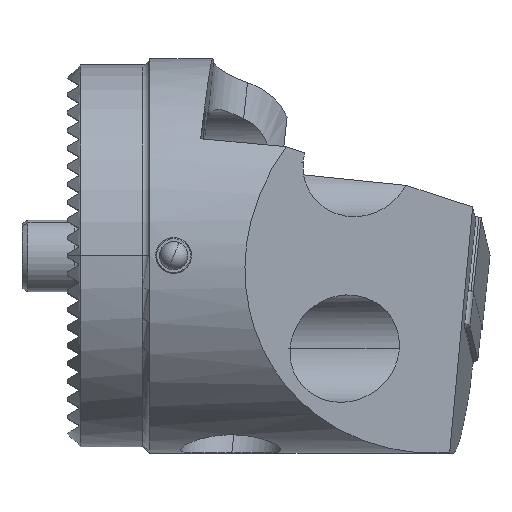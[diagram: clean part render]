
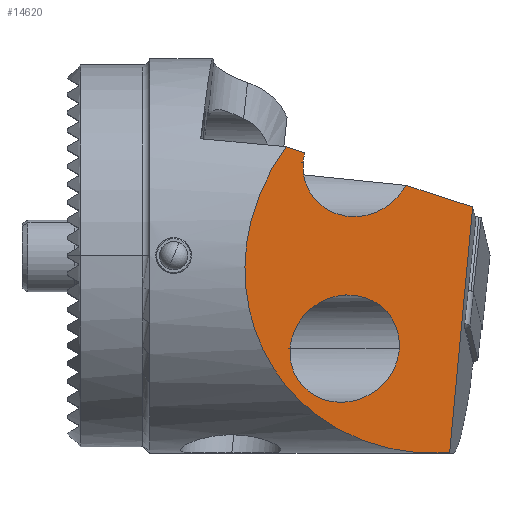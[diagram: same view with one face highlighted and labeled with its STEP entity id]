
A CAD part, top view. The second image highlights one B-rep face of the part: STEP entity #14620.
In plain terms, the highlighted planar face has unit normal (0.701, -0.049, 0.712).
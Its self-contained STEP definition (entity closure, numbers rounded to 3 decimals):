
#1172 = CARTESIAN_POINT ( 'NONE',  ( 24.949, 0.296, 6.248 ) ) ;
#1301 = ORIENTED_EDGE ( 'NONE', *, *, #18798, .F. ) ;
#1787 = ORIENTED_EDGE ( 'NONE', *, *, #15369, .T. ) ;
#2332 =( BOUNDED_CURVE ( )  B_SPLINE_CURVE ( 3, ( #7315, #13569, #19921, #7706 ),
 .UNSPECIFIED., .F., .F. ) 
 B_SPLINE_CURVE_WITH_KNOTS ( ( 4, 4 ),
 ( 6.214, 9.356 ),
 .UNSPECIFIED. ) 
 CURVE ( )  GEOMETRIC_REPRESENTATION_ITEM ( )  RATIONAL_B_SPLINE_CURVE ( ( 1., 0.333, 0.333, 1. ) ) 
 REPRESENTATION_ITEM ( '' )  );
#2341 = DIRECTION ( 'NONE',  ( -0.713, 0., 0.701 ) ) ;
#2640 = CARTESIAN_POINT ( 'NONE',  ( 17.949, 9.122, 13.749 ) ) ;
#2766 = DIRECTION ( 'NONE',  ( 0.687, -0.221, -0.692 ) ) ;
#2960 = ORIENTED_EDGE ( 'NONE', *, *, #14311, .F. ) ;
#3030 = VERTEX_POINT ( 'NONE', #12591 ) ;
#3087 = VECTOR ( 'NONE', #9822, 1000. ) ;
#3417 = CARTESIAN_POINT ( 'NONE',  ( 30.118, -16.5, 0. ) ) ;
#3555 = VECTOR ( 'NONE', #7756, 1000. ) ;
#3759 = PLANE ( 'NONE',  #11657 ) ;
#3819 = LINE ( 'NONE', #12238, #10282 ) ;
#5655 = CARTESIAN_POINT ( 'NONE',  ( 27.949, 5.909, 3.685 ) ) ;
#5740 = CARTESIAN_POINT ( 'NONE',  ( 30.118, -16.5, 0. ) ) ;
#5889 = VECTOR ( 'NONE', #15462, 1000. ) ;
#5936 = EDGE_CURVE ( 'NONE', #10326, #13219, #14081, .T. ) ;
#6059 =( BOUNDED_CURVE ( )  B_SPLINE_CURVE ( 3, ( #17284, #6584, #18833, #15676 ),
 .UNSPECIFIED., .F., .F. ) 
 B_SPLINE_CURVE_WITH_KNOTS ( ( 4, 4 ),
 ( 2.883, 3.073 ),
 .UNSPECIFIED. ) 
 CURVE ( )  GEOMETRIC_REPRESENTATION_ITEM ( )  RATIONAL_B_SPLINE_CURVE ( ( 1., 0.997, 0.997, 1. ) ) 
 REPRESENTATION_ITEM ( '' )  );
#6227 = LINE ( 'NONE', #6824, #3087 ) ;
#6526 = EDGE_LOOP ( 'NONE', ( #12628, #1787, #18224, #2960, #1301, #12614, #8084 ) ) ;
#6584 = CARTESIAN_POINT ( 'NONE',  ( 19.416, 8.347, 12.251 ) ) ;
#6824 = CARTESIAN_POINT ( 'NONE',  ( 29.934, -34.454, -1.062 ) ) ;
#7315 = CARTESIAN_POINT ( 'NONE',  ( 27.4, -7.778, 3.278 ) ) ;
#7535 = EDGE_CURVE ( 'NONE', #11608, #3030, #19780, .T. ) ;
#7706 = CARTESIAN_POINT ( 'NONE',  ( 18.255, -7.778, 12.278 ) ) ;
#7756 = DIRECTION ( 'NONE',  ( 0.713, 0., -0.701 ) ) ;
#8084 = ORIENTED_EDGE ( 'NONE', *, *, #8744, .F. ) ;
#8250 = ORIENTED_EDGE ( 'NONE', *, *, #7535, .F. ) ;
#8744 = EDGE_CURVE ( 'NONE', #10326, #11327, #13838, .T. ) ;
#8825 = FACE_OUTER_BOUND ( 'NONE', #6526, .T. ) ;
#8995 = CARTESIAN_POINT ( 'NONE',  ( 27.4, -7.778, 3.278 ) ) ;
#9061 = CARTESIAN_POINT ( 'NONE',  ( 17.622, -16.778, 12.278 ) ) ;
#9076 = EDGE_CURVE ( 'NONE', #11327, #9391, #6059, .T. ) ;
#9391 = VERTEX_POINT ( 'NONE', #13209 ) ;
#9822 = DIRECTION ( 'NONE',  ( -0.093, -0.995, 0.023 ) ) ;
#10019 = LINE ( 'NONE', #16936, #3555 ) ;
#10051 = EDGE_CURVE ( 'NONE', #3030, #11608, #2332, .T. ) ;
#10067 = EDGE_LOOP ( 'NONE', ( #10322, #8250 ) ) ;
#10136 = CARTESIAN_POINT ( 'NONE',  ( 19.348, 7.778, 12.278 ) ) ;
#10282 = VECTOR ( 'NONE', #2766, 1000. ) ;
#10322 = ORIENTED_EDGE ( 'NONE', *, *, #10051, .F. ) ;
#10326 = VERTEX_POINT ( 'NONE', #16835 ) ;
#10334 =( BOUNDED_CURVE ( )  B_SPLINE_CURVE ( 3, ( #10136, #14945, #1172, #19470 ),
 .UNSPECIFIED., .F., .F. ) 
 B_SPLINE_CURVE_WITH_KNOTS ( ( 4, 4 ),
 ( 3.073, 5.786 ),
 .UNSPECIFIED. ) 
 CURVE ( )  GEOMETRIC_REPRESENTATION_ITEM ( )  RATIONAL_B_SPLINE_CURVE ( ( 1., 0.475, 0.475, 1. ) ) 
 REPRESENTATION_ITEM ( '' )  );
#10951 = CARTESIAN_POINT ( 'NONE',  ( 19.49, 8.627, 12.197 ) ) ;
#11327 = VERTEX_POINT ( 'NONE', #10951 ) ;
#11419 = CARTESIAN_POINT ( 'NONE',  ( 45.421, 0.607, -13.877 ) ) ;
#11608 = VERTEX_POINT ( 'NONE', #11869 ) ;
#11657 = AXIS2_PLACEMENT_3D ( 'NONE', #11419, #19248, #2341 ) ;
#11869 = CARTESIAN_POINT ( 'NONE',  ( 18.255, -7.778, 12.278 ) ) ;
#12038 = VERTEX_POINT ( 'NONE', #16683 ) ;
#12238 = CARTESIAN_POINT ( 'NONE',  ( 33.508, 4.122, -1.91 ) ) ;
#12301 = CARTESIAN_POINT ( 'NONE',  ( 26.767, -16.778, 3.278 ) ) ;
#12591 = CARTESIAN_POINT ( 'NONE',  ( 27.4, -7.778, 3.278 ) ) ;
#12614 = ORIENTED_EDGE ( 'NONE', *, *, #9076, .F. ) ;
#12628 = ORIENTED_EDGE ( 'NONE', *, *, #5936, .T. ) ;
#13209 = CARTESIAN_POINT ( 'NONE',  ( 19.348, 7.778, 12.278 ) ) ;
#13219 = VERTEX_POINT ( 'NONE', #3417 ) ;
#13569 = CARTESIAN_POINT ( 'NONE',  ( 28.033, 1.222, 3.278 ) ) ;
#13838 = LINE ( 'NONE', #13988, #5889 ) ;
#13988 = CARTESIAN_POINT ( 'NONE',  ( 33.508, 4.122, -1.91 ) ) ;
#14081 =( BOUNDED_CURVE ( )  B_SPLINE_CURVE ( 3, ( #2640, #17925, #19489, #5740 ),
 .UNSPECIFIED., .F., .F. ) 
 B_SPLINE_CURVE_WITH_KNOTS ( ( 4, 4 ),
 ( 2.487, 4.643 ),
 .UNSPECIFIED. ) 
 CURVE ( )  GEOMETRIC_REPRESENTATION_ITEM ( )  RATIONAL_B_SPLINE_CURVE ( ( 1., 0.649, 0.649, 1. ) ) 
 REPRESENTATION_ITEM ( '' )  );
#14102 = EDGE_CURVE ( 'NONE', #15020, #12038, #6227, .T. ) ;
#14311 = EDGE_CURVE ( 'NONE', #17860, #15020, #3819, .T. ) ;
#14620 = ADVANCED_FACE ( 'NONE', ( #18753, #8825 ), #3759, .F. ) ;
#14945 = CARTESIAN_POINT ( 'NONE',  ( 18.915, 1.607, 12.278 ) ) ;
#15020 = VERTEX_POINT ( 'NONE', #15865 ) ;
#15369 = EDGE_CURVE ( 'NONE', #13219, #12038, #10019, .T. ) ;
#15462 = DIRECTION ( 'NONE',  ( 0.687, -0.221, -0.692 ) ) ;
#15676 = CARTESIAN_POINT ( 'NONE',  ( 19.348, 7.778, 12.278 ) ) ;
#15865 = CARTESIAN_POINT ( 'NONE',  ( 33.551, 4.108, -1.953 ) ) ;
#16683 = CARTESIAN_POINT ( 'NONE',  ( 31.618, -16.5, -1.477 ) ) ;
#16835 = CARTESIAN_POINT ( 'NONE',  ( 17.949, 9.122, 13.749 ) ) ;
#16936 = CARTESIAN_POINT ( 'NONE',  ( 17.103, -16.5, 12.808 ) ) ;
#17284 = CARTESIAN_POINT ( 'NONE',  ( 19.49, 8.627, 12.197 ) ) ;
#17860 = VERTEX_POINT ( 'NONE', #5655 ) ;
#17925 = CARTESIAN_POINT ( 'NONE',  ( 8.677, -3.331, 22.012 ) ) ;
#18224 = ORIENTED_EDGE ( 'NONE', *, *, #14102, .F. ) ;
#18753 = FACE_BOUND ( 'NONE', #10067, .T. ) ;
#18798 = EDGE_CURVE ( 'NONE', #9391, #17860, #10334, .T. ) ;
#18833 = CARTESIAN_POINT ( 'NONE',  ( 19.368, 8.063, 12.278 ) ) ;
#19248 = DIRECTION ( 'NONE',  ( -0.701, 0.049, -0.712 ) ) ;
#19470 = CARTESIAN_POINT ( 'NONE',  ( 27.949, 5.909, 3.685 ) ) ;
#19489 = CARTESIAN_POINT ( 'NONE',  ( 14.932, -16.5, 14.945 ) ) ;
#19780 =( BOUNDED_CURVE ( )  B_SPLINE_CURVE ( 3, ( #19952, #9061, #12301, #8995 ),
 .UNSPECIFIED., .F., .F. ) 
 B_SPLINE_CURVE_WITH_KNOTS ( ( 4, 4 ),
 ( 3.073, 6.214 ),
 .UNSPECIFIED. ) 
 CURVE ( )  GEOMETRIC_REPRESENTATION_ITEM ( )  RATIONAL_B_SPLINE_CURVE ( ( 1., 0.333, 0.333, 1. ) ) 
 REPRESENTATION_ITEM ( '' )  );
#19921 = CARTESIAN_POINT ( 'NONE',  ( 18.888, 1.222, 12.278 ) ) ;
#19952 = CARTESIAN_POINT ( 'NONE',  ( 18.255, -7.778, 12.278 ) ) ;
